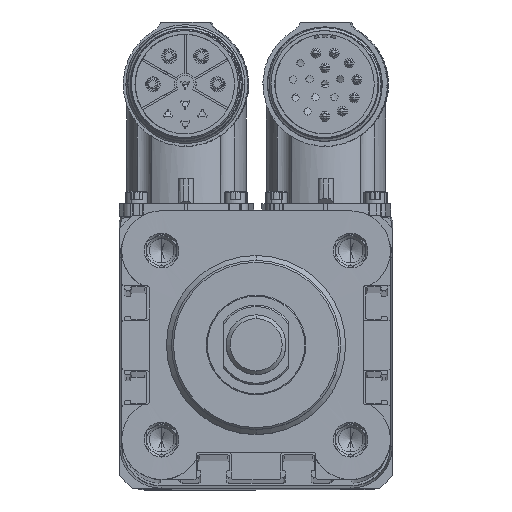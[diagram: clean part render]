
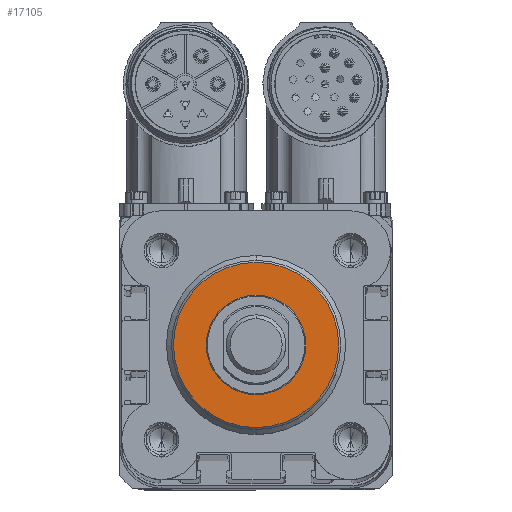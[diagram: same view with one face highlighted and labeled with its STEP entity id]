
A CAD part, top view. The second image highlights one B-rep face of the part: STEP entity #17105.
In plain terms, the highlighted planar face has unit normal (0, 0, 1).
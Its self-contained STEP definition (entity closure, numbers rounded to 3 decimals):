
#6588=CARTESIAN_POINT('',(0.,0.,21.));
#6589=DIRECTION('',(0.,0.,1.));
#6590=DIRECTION('',(0.,1.,0.));
#6591=AXIS2_PLACEMENT_3D('',#6588,#6589,#6590);
#6593=CARTESIAN_POINT('',(0.,0.,21.));
#6594=DIRECTION('',(0.,0.,1.));
#6595=DIRECTION('',(0.,-1.,0.));
#6596=AXIS2_PLACEMENT_3D('',#6593,#6594,#6595);
#6598=CARTESIAN_POINT('',(0.,0.,21.));
#6599=DIRECTION('',(0.,0.,-1.));
#6600=DIRECTION('',(0.,1.,0.));
#6601=AXIS2_PLACEMENT_3D('',#6598,#6599,#6600);
#6603=CARTESIAN_POINT('',(0.,0.,21.));
#6604=DIRECTION('',(0.,0.,-1.));
#6605=DIRECTION('',(0.,-1.,0.));
#6606=AXIS2_PLACEMENT_3D('',#6603,#6604,#6605);
#6706=CARTESIAN_POINT('',(0.,16.6,21.));
#6708=VERTEX_POINT('',#6706);
#6712=CARTESIAN_POINT('',(0.,-16.6,21.));
#6713=VERTEX_POINT('',#6712);
#6727=CARTESIAN_POINT('',(0.,10.,21.));
#6729=VERTEX_POINT('',#6727);
#6730=CARTESIAN_POINT('',(0.,-10.,21.));
#6731=VERTEX_POINT('',#6730);
#17090=CARTESIAN_POINT('',(0.,8.3,21.));
#17091=DIRECTION('',(0.,0.,1.));
#17092=DIRECTION('',(0.,1.,0.));
#17093=AXIS2_PLACEMENT_3D('',#17090,#17091,#17092);
#17094=PLANE('',#17093);
#17095=ORIENTED_EDGE('',*,*,#17069,.F.);
#17096=ORIENTED_EDGE('',*,*,#17085,.F.);
#17097=EDGE_LOOP('',(#17095,#17096));
#17098=FACE_OUTER_BOUND('',#17097,.F.);
#17100=ORIENTED_EDGE('',*,*,#17099,.F.);
#17102=ORIENTED_EDGE('',*,*,#17101,.F.);
#17103=EDGE_LOOP('',(#17100,#17102));
#17104=FACE_BOUND('',#17103,.F.);
#17105=ADVANCED_FACE('',(#17098,#17104),#17094,.T.);
#6592=CIRCLE('',#6591,16.6);
#6597=CIRCLE('',#6596,16.6);
#6602=CIRCLE('',#6601,10.);
#6607=CIRCLE('',#6606,10.);
#17069=EDGE_CURVE('',#6708,#6713,#6592,.T.);
#17085=EDGE_CURVE('',#6713,#6708,#6597,.T.);
#17099=EDGE_CURVE('',#6729,#6731,#6602,.T.);
#17101=EDGE_CURVE('',#6731,#6729,#6607,.T.);
